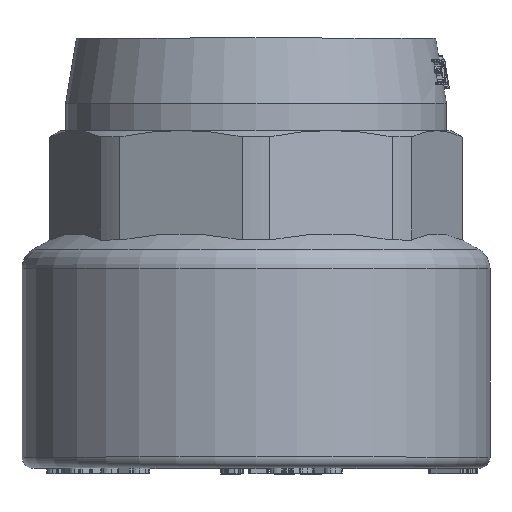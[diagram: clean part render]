
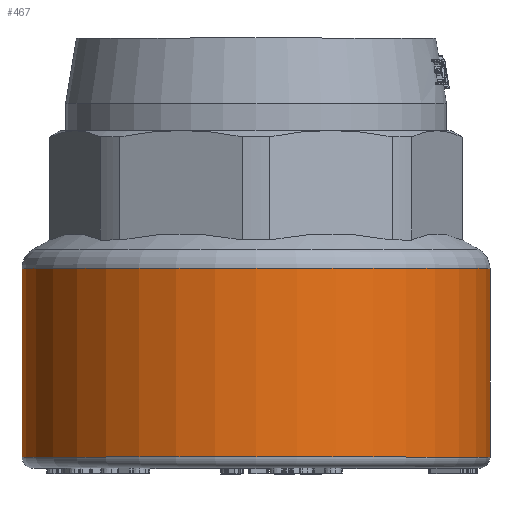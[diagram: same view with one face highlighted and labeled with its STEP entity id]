
A CAD part, top view. The second image highlights one B-rep face of the part: STEP entity #467.
In plain terms, the highlighted cylindrical face has radius 21.5 mm (diameter 43 mm), a full revolution.
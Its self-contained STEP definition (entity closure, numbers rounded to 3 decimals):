
#467=ADVANCED_FACE('',(#2595,#2597),#2599,.T.);
#2595=FACE_OUTER_BOUND('',#2596,.T.);
#2596=EDGE_LOOP('',(#8813));
#2597=FACE_OUTER_BOUND('',#2598,.T.);
#2598=EDGE_LOOP('',(#8814));
#2599=CYLINDRICAL_SURFACE('',#2600,21.5);
#2600=AXIS2_PLACEMENT_3D('',#2601,#2602,#2603);
#2601=CARTESIAN_POINT('',(0.,0.,0.));
#2602=DIRECTION('',(0.,1.,0.));
#2603=DIRECTION('',(-1.,0.,0.));
#8813=ORIENTED_EDGE('',*,*,#13836,.F.);
#8814=ORIENTED_EDGE('',*,*,#13838,.T.);
#13836=EDGE_CURVE('',#16554,#16554,#16555,.T.);
#13838=EDGE_CURVE('',#16558,#16558,#16559,.T.);
#16554=VERTEX_POINT('',#24354);
#16555=CIRCLE('',#24355,21.5);
#16558=VERTEX_POINT('',#24364);
#16559=CIRCLE('',#24365,21.5);
#24354=CARTESIAN_POINT('',(-21.5,18.345,0.));
#24355=AXIS2_PLACEMENT_3D('',#24356,#24357,#24358);
#24356=CARTESIAN_POINT('',(0.,18.345,0.));
#24357=DIRECTION('',(0.,1.,0.));
#24358=DIRECTION('',(-1.,0.,0.));
#24364=CARTESIAN_POINT('',(-21.5,1.,0.));
#24365=AXIS2_PLACEMENT_3D('',#24366,#24367,#24368);
#24366=CARTESIAN_POINT('',(0.,1.,0.));
#24367=DIRECTION('',(0.,1.,0.));
#24368=DIRECTION('',(-1.,0.,0.));
